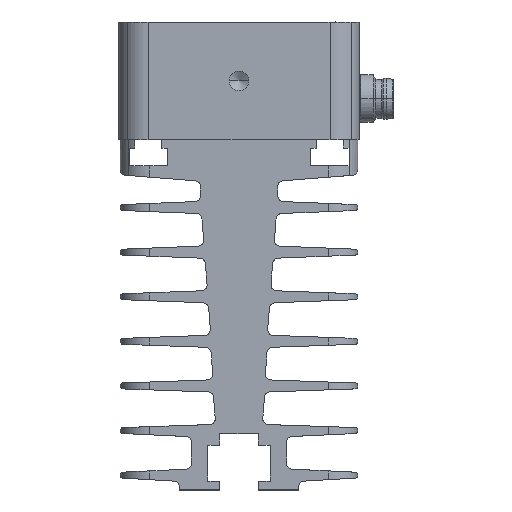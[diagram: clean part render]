
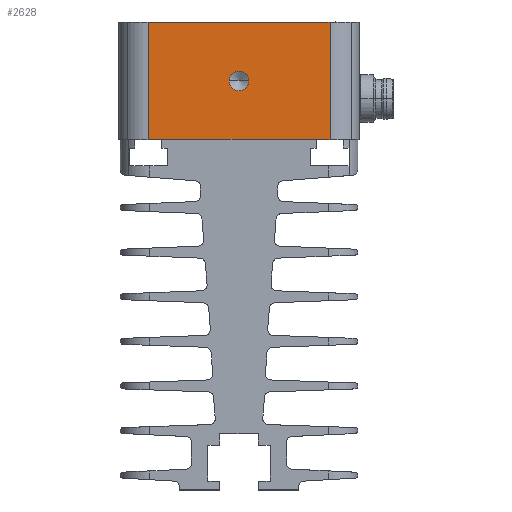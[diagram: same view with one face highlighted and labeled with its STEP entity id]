
A CAD part, left-side view. The second image highlights one B-rep face of the part: STEP entity #2628.
In plain terms, the highlighted planar face has unit normal (-1, 0, 0).
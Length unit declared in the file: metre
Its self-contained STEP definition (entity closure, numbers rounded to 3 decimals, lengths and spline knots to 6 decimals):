
#2628=ADVANCED_FACE('0:19278',(#5596,#5597),#5598,.T.);
#5596=FACE_OUTER_BOUND('',#7479,.T.);
#5597=FACE_BOUND('',#7480,.T.);
#5598=PLANE('',#7481);
#6402=EDGE_CURVE('0:19812',#8830,#8832,#8833,.T.);
#6477=EDGE_CURVE('0:21168',#8830,#8935,#8936,.T.);
#7479=EDGE_LOOP('',(#11444,#11445,#11446,#11447,#11448,#11449,#11450,#11451));
#7480=EDGE_LOOP('',(#11452,#11453));
#7481=AXIS2_PLACEMENT_3D('',#11454,#11455,#11456);
#8830=VERTEX_POINT('',#13657);
#8832=VERTEX_POINT('',#13660);
#8833=LINE('',#13661,#13662);
#8935=VERTEX_POINT('',#13899);
#8936=LINE('',#13900,#13901);
#11444=ORIENTED_EDGE('',*,*,#6477,.T.);
#11445=ORIENTED_EDGE('',*,*,#14665,.T.);
#11446=ORIENTED_EDGE('',*,*,#15024,.F.);
#11447=ORIENTED_EDGE('',*,*,#15027,.T.);
#11448=ORIENTED_EDGE('',*,*,#14439,.F.);
#11449=ORIENTED_EDGE('',*,*,#14657,.T.);
#11450=ORIENTED_EDGE('',*,*,#14655,.T.);
#11451=ORIENTED_EDGE('',*,*,#6402,.F.);
#11452=ORIENTED_EDGE('',*,*,#15004,.T.);
#11453=ORIENTED_EDGE('',*,*,#14467,.T.);
#11454=CARTESIAN_POINT('',(-0.0921,0.0,0.0));
#11455=DIRECTION('',(-1.0,0.0,0.0));
#11456=DIRECTION('',(0.0,0.0,1.0));
#13657=CARTESIAN_POINT('',(-0.092101,-0.013001,0.0001));
#13660=CARTESIAN_POINT('',(-0.092101,0.012999,0.0001));
#13661=CARTESIAN_POINT('',(-0.092101,-0.000001,0.0001));
#13662=VECTOR('',#17010,1.0);
#13899=CARTESIAN_POINT('',(-0.0921,-0.013001,0.0));
#13900=CARTESIAN_POINT('',(-0.0921,-0.013001,-0.0007));
#13901=VECTOR('',#17077,1.0);
#14439=EDGE_CURVE('0:22491',#17526,#17528,#17529,.T.);
#14467=EDGE_CURVE('0:22422',#17577,#17580,#17582,.T.);
#14655=EDGE_CURVE('0:19818',#17922,#8832,#17923,.T.);
#14657=EDGE_CURVE('0:21237',#17526,#17922,#17925,.T.);
#14665=EDGE_CURVE('0:21261',#8935,#17935,#17937,.T.);
#15004=EDGE_CURVE('0:22422',#17580,#17577,#18462,.T.);
#15024=EDGE_CURVE('0:22506',#18492,#17935,#18494,.T.);
#15027=EDGE_CURVE('0:22539',#18492,#17528,#18497,.F.);
#17010=DIRECTION('',(0.,1.0,0.));
#17077=DIRECTION('',(-0.0,0.,-1.0));
#17526=VERTEX_POINT('',#19001);
#17528=VERTEX_POINT('',#19003);
#17529=LINE('',#19004,#19005);
#17577=VERTEX_POINT('',#19065);
#17580=VERTEX_POINT('',#19069);
#17582=CIRCLE('',#19072,0.00165);
#17922=VERTEX_POINT('',#19553);
#17923=LINE('',#19554,#19555);
#17925=LINE('',#19558,#19559);
#17935=VERTEX_POINT('',#19572);
#17937=LINE('',#19574,#19575);
#18462=CIRCLE('',#20749,0.00165);
#18492=VERTEX_POINT('',#20786);
#18494=LINE('',#20788,#20789);
#18497=LINE('',#20793,#20794);
#19001=CARTESIAN_POINT('',(-0.0921,0.0153,0.0));
#19003=CARTESIAN_POINT('',(-0.0921,0.0153,0.0198));
#19004=CARTESIAN_POINT('',(-0.0921,0.0153,0.0));
#19005=VECTOR('',#21516,1.0);
#19065=CARTESIAN_POINT('',(-0.0921,0.00165,0.0099));
#19069=CARTESIAN_POINT('',(-0.0921,-0.00165,0.0099));
#19072=AXIS2_PLACEMENT_3D('',#21570,#21571,#21572);
#19553=CARTESIAN_POINT('',(-0.0921,0.012999,0.0));
#19554=CARTESIAN_POINT('',(-0.0921,0.012999,0.00005));
#19555=VECTOR('',#21915,1.0);
#19558=CARTESIAN_POINT('',(-0.0921,0.0,0.0));
#19559=VECTOR('',#21917,1.0);
#19572=CARTESIAN_POINT('',(-0.0921,-0.0153,0.0));
#19574=CARTESIAN_POINT('',(-0.0921,0.0,0.0));
#19575=VECTOR('',#21933,1.0);
#20749=AXIS2_PLACEMENT_3D('',#22382,#22383,#22384);
#20786=CARTESIAN_POINT('',(-0.0921,-0.0153,0.0198));
#20788=CARTESIAN_POINT('',(-0.0921,-0.0153,0.0));
#20789=VECTOR('',#22428,1.0);
#20793=CARTESIAN_POINT('',(-0.0921,0.0,0.0198));
#20794=VECTOR('',#22433,1.0);
#21516=DIRECTION('',(0.0,-0.0,1.0));
#21570=CARTESIAN_POINT('',(-0.0921,0.0,0.0099));
#21571=DIRECTION('',(1.0,0.0,-0.0));
#21572=DIRECTION('',(0.0,1.0,0.));
#21915=DIRECTION('',(0.0,0.,1.0));
#21917=DIRECTION('',(-0.0,-1.0,-0.0));
#21933=DIRECTION('',(-0.0,-1.0,-0.0));
#22382=CARTESIAN_POINT('',(-0.0921,0.0,0.0099));
#22383=DIRECTION('',(1.0,0.0,-0.0));
#22384=DIRECTION('',(0.0,1.0,0.));
#22428=DIRECTION('',(-0.0,-0.0,-1.0));
#22433=DIRECTION('',(-0.0,-1.0,-0.0));
